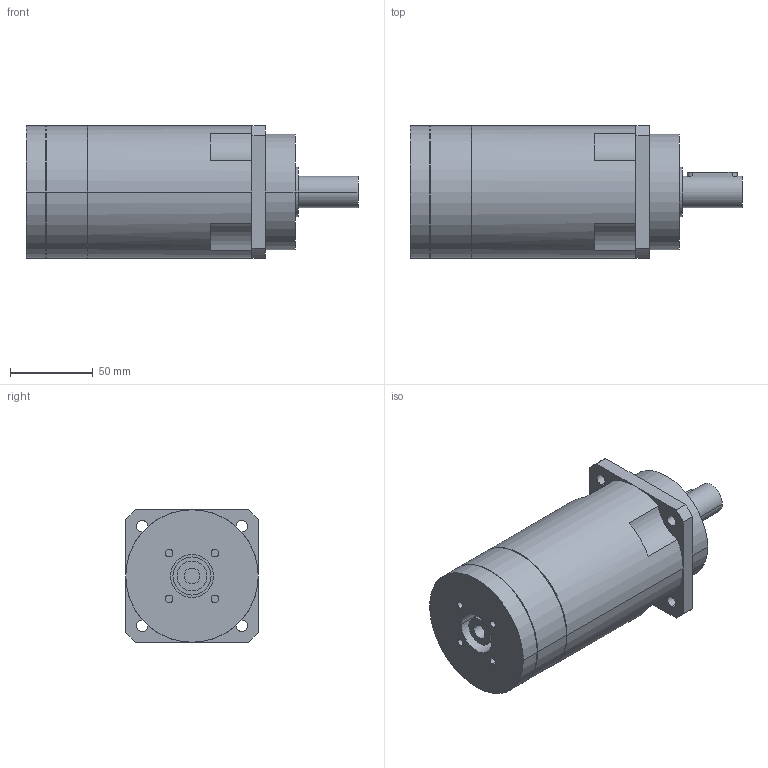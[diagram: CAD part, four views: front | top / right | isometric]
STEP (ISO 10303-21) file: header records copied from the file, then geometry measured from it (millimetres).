
FILE_DESCRIPTION(('CoCreate Modeling STEP Export'),'2;1');
FILE_NAME('GPR100_ig-48-64-80-100-120-144-180-216_19_B5_9.52_P09.stp','2014-08-26T11:57:42',(''),(''),'CoCreate Modeling STEP processor for AP214 (Solid Model)','CoCreate Modeling 16.00C 25-Feb-2009 (C) Parametric Technology GmbH','');
FILE_SCHEMA(('AUTOMOTIVE_DESIGN { 1 0 10303 214 1 1 1 1 }'));
Length unit declared in the file: millimetre
Products named in the file (2): GPR100_ig-48-64-80-100-120-144-180-216_19_B5_9.52_P09
Assembly tree (1 placements, depth 2):
  GPR100_ig-48-64-80-100-120-144-180-216_19_B5_9.52_P09
    GPR100_ig-48-64-80-100-120-144-180-216_19_B5_9.52_P09
Bounding box: 200.4 x 80 x 80 mm (x, y, z)
Volume: 800245.3 mm3; surface area: 60915.9 mm2
Topology: 1 solids, 1 shells, 96 faces, 249 edges, 171 vertices
Faces by surface type: cylinder 56, plane 34, cone 6
Entity records: 2604 total; most frequent: ORIENTED_EDGE 494, CARTESIAN_POINT 467, DIRECTION 376, EDGE_CURVE 247, VERTEX_POINT 171, AXIS2_PLACEMENT_3D 144, EDGE_LOOP 122, FACE_OUTER_BOUND 96
